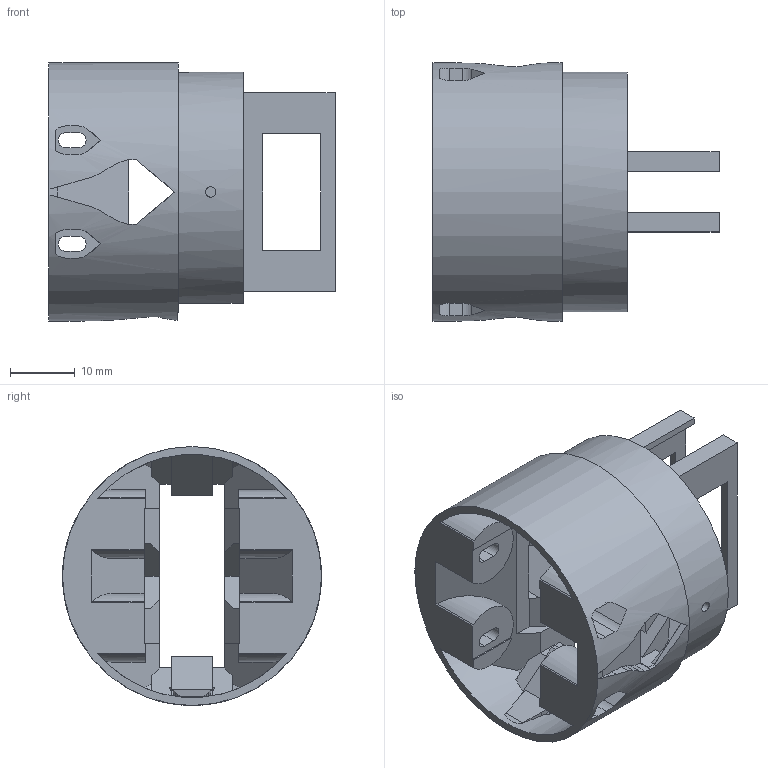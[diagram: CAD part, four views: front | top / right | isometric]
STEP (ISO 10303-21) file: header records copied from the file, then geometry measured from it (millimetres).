
FILE_DESCRIPTION(('Open CASCADE Model'),'2;1');
FILE_NAME('Open CASCADE Shape Model','2026-10-04T21:26:20',('Author'),( 'Open CASCADE'),'Open CASCADE STEP processor 7.9','Open CASCADE 7.9' ,'Unknown');
FILE_SCHEMA(('AUTOMOTIVE_DESIGN { 1 0 10303 214 1 1 1 1 }'));
Length unit declared in the file: millimetre
Products named in the file (1): Open CASCADE STEP translator 7.9 6
Bounding box: 44.2 x 40 x 40 mm (x, y, z)
Volume: 15610.9 mm3; surface area: 13261.2 mm2
Topology: 1 solids, 1 shells, 371 faces, 1087 edges, 710 vertices
Faces by surface type: plane 262, cylinder 53, bspline 52, cone 4
Full cylindrical faces by diameter (mm): 1.6 x2, 40 x1
Entity records: 28327 total; most frequent: CARTESIAN_POINT 8679, DIRECTION 2996, ORIENTED_EDGE 2184, PCURVE 2174, DEFINITIONAL_REPRESENTATION 2174, LINE 1773, VECTOR 1773, EDGE_CURVE 1087
